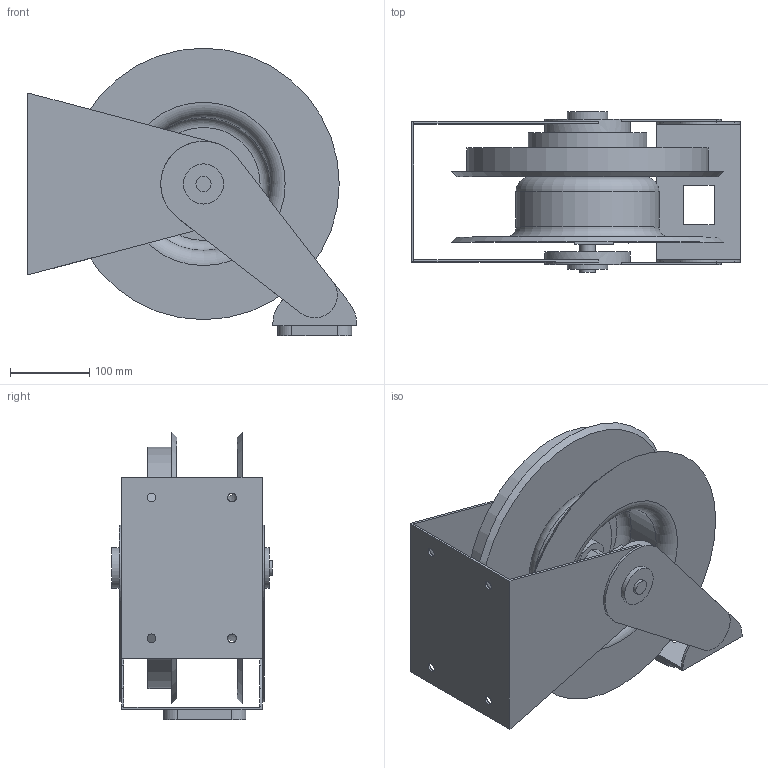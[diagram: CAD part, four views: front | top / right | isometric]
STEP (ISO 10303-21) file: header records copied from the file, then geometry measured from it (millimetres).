
FILE_DESCRIPTION( ( 'Unknown' ), '1' );
FILE_NAME( 'J:/NPD/RE 12893 3D WEB MODELS/DP5000 SERIES/DP5000 OXP NARROW.stp', 'Unknown', ( 'Unknown' ), ( 'Unknown' ), 'PSStep 10.1', 'Unknown', ' ' );
FILE_SCHEMA( ( 'AUTOMOTIVE_DESIGN { 1 0 10303 214 1 1 1 1 }' ) );
Length unit declared in the file: millimetre
Products named in the file (1): 1
Bounding box: 415.44 x 203.2 x 363.25 mm (x, y, z)
Volume: 4962755 mm3; surface area: 822095.3 mm2
Topology: 1 solids, 1 shells, 120 faces, 290 edges, 187 vertices
Faces by surface type: plane 81, cylinder 30, torus 5, cone 4
Full cylindrical faces by diameter (mm): 11.113 x4, 18.923 x2, 19.05 x2, 44.45 x1, 50.8 x2, 107.95 x3, 149.809 x1, 168.148 x1, 180.848 x1, 304.673 x1
Entity records: 4264 total; most frequent: DIRECTION 578, CARTESIAN_POINT 551, ORIENTED_EDGE 506, EDGE_CURVE 253, AXIS2_PLACEMENT_3D 204, VERTEX_POINT 177, EDGE_LOOP 176, LINE 170
